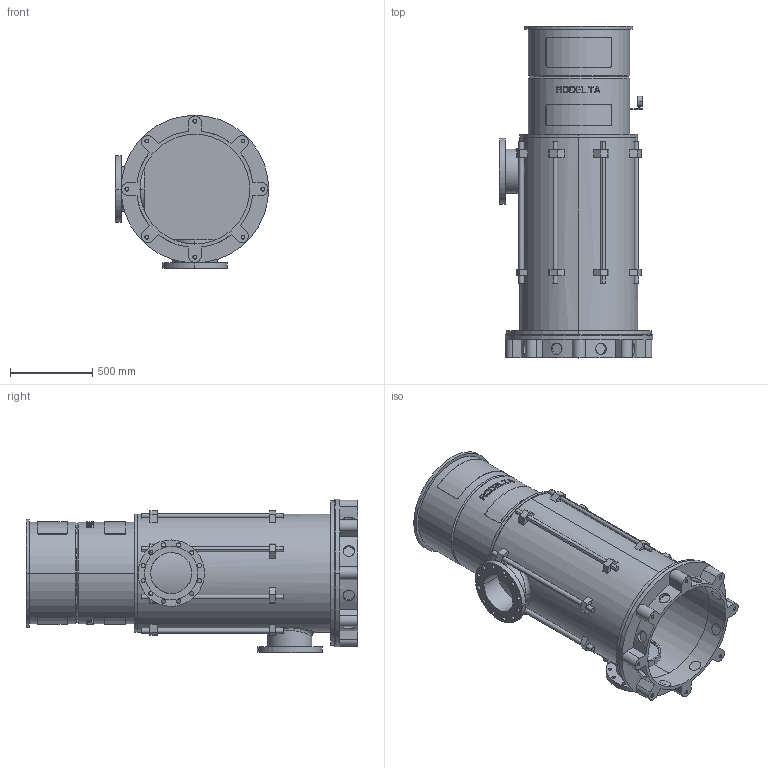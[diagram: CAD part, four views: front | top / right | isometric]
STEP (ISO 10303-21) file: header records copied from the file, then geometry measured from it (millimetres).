
FILE_DESCRIPTION((''),'2;1');
FILE_NAME('LS10_2TR_0GR_P_PN16','2025-10-20T12:04:28',('Lyritlocal'),(''),'CREO PARAMETRIC BY PTC INC, 2022014','CREO PARAMETRIC BY PTC INC, 2022014','');
FILE_SCHEMA(('CONFIG_CONTROL_DESIGN'));
Length unit declared in the file: millimetre
Products named in the file (1): LS10_2TR_0GR_P_PN16
Bounding box: 935 x 2023 x 935 mm (x, y, z)
Volume: 90073761.2 mm3; surface area: 12354677.2 mm2
Topology: 3 solids, 11 shells, 752 faces, 1936 edges, 1288 vertices
Faces by surface type: plane 462, cylinder 274, cone 12, bspline 4
Entity records: 24341 total; most frequent: CARTESIAN_POINT 5987, ORIENTED_EDGE 3840, DIRECTION 3664, EDGE_CURVE 1936, AXIS2_PLACEMENT_3D 1381, VERTEX_POINT 1288, EDGE_LOOP 922, VECTOR 902
